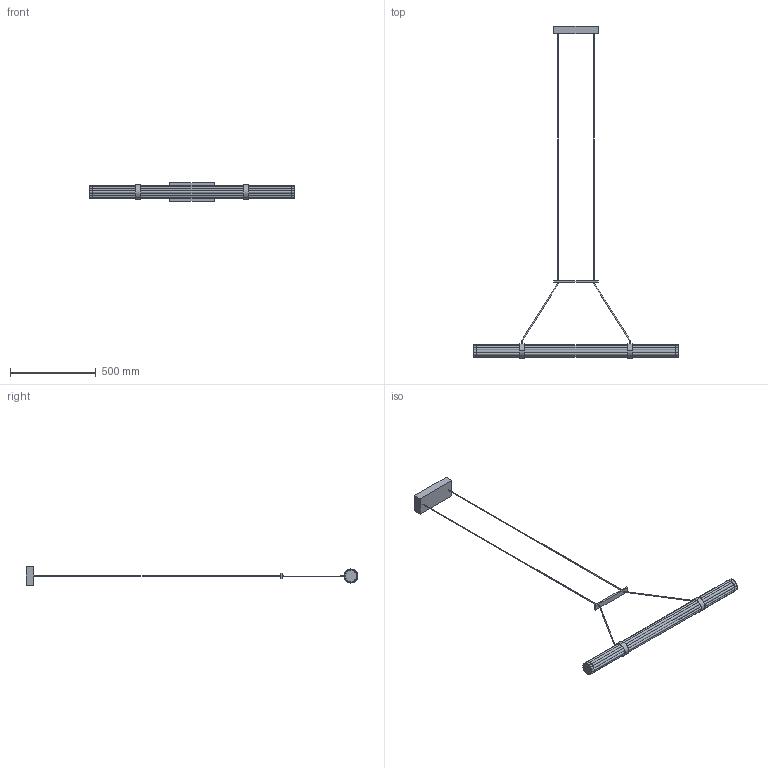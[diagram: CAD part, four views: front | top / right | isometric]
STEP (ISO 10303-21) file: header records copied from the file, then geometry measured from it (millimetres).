
FILE_DESCRIPTION (( 'STEP AP214' ), '1' );
FILE_NAME ('NIRO_CU1314.STEP', '2026-06-05T08:05:23', ( '' ), ( '' ), 'SwSTEP 2.0', 'SolidWorks 2023', '' );
FILE_SCHEMA (( 'AUTOMOTIVE_DESIGN' ));
Length unit declared in the file: inch
Products named in the file (1): NIRO_CU1314
Bounding box: 1200 x 1935.96 x 109.98 mm (x, y, z)
Volume: 6321378 mm3; surface area: 641487.2 mm2
Topology: 12 solids, 12 shells, 167 faces, 387 edges, 250 vertices
Faces by surface type: cylinder 113, plane 38, cone 8, torus 8
Entity records: 5355 total; most frequent: CARTESIAN_POINT 1165, DIRECTION 941, ORIENTED_EDGE 774, AXIS2_PLACEMENT_3D 398, EDGE_CURVE 387, VERTEX_POINT 250, CIRCLE 230, EDGE_LOOP 189
